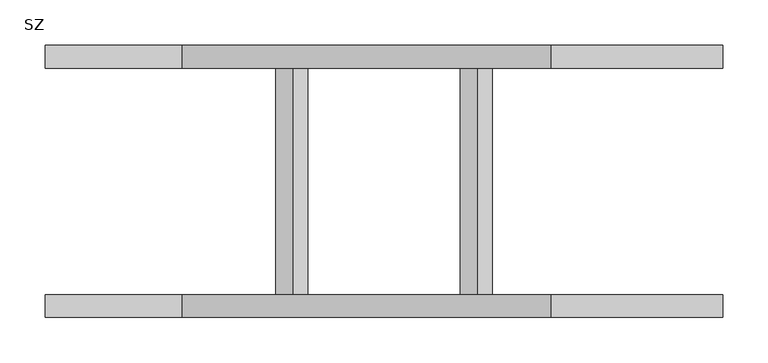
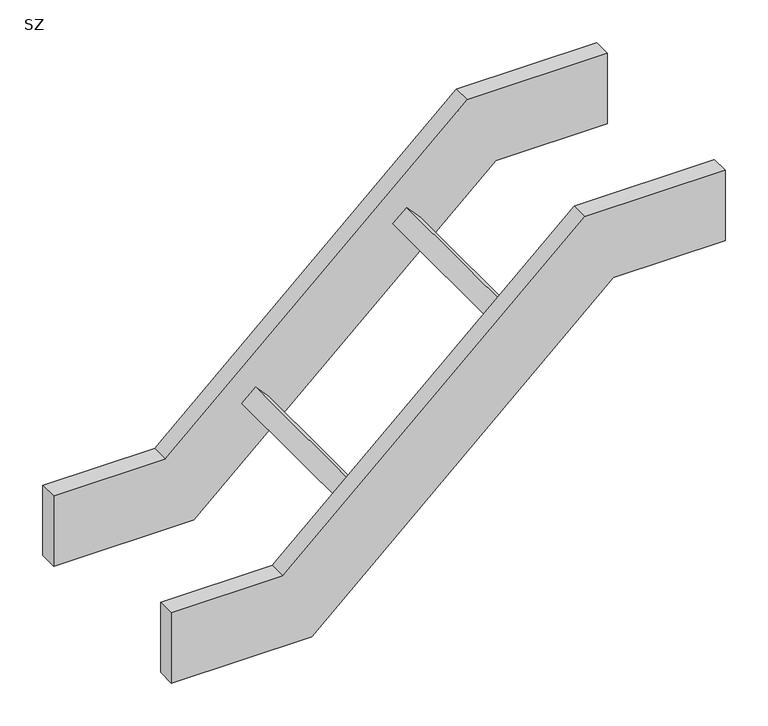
"""IFC4 building model written with IfcOpenShell, lengths in millimetres: cable carrier fitting geometry, IEK_Лестничный_Поворот шарнирный : SZ."""

from ifc_helpers import new_model, si_unit, frame, origin, place, context, project, spatial, polyline, outline, extrude, source, transform, mapped, element, save


def sz_76e921f6(model_context):
    return source(origin(), model_context, "Body", "SweptSolid", [
        extrude(outline(polyline([(0.0, -250.0), (0.0, 0.0), (24.9999999, 0.0), (24.9999999, -250.0), (0.0, -250.0)])), frame((304.3844393, 125.0, 259.8198667), z_axis=(-0.6726727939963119, 0.0, 0.7399400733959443), x_axis=(0.7399400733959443, 0.0, 0.6726727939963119)), (0.0, 0.0, 1.0), 25.0),
        extrude(outline(polyline([(0.0, -250.0), (0.0, 0.0), (25.0, 0.0), (25.0, -250.0), (0.0, -250.0)])), frame((100.9009191, 125.0, 74.8348483), z_axis=(-0.6726727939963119, 0.0, 0.7399400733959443), x_axis=(0.7399400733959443, 0.0, 0.6726727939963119)), (0.0, 0.0, 1.0), 25.0),
        extrude(outline(polyline([(50.0, -170.0), (-50.0, -170.0), (-50.0, 19.3303437), (319.9700367, 426.2973841), (319.9700367, 576.9670404), (419.9700367, 576.9670404), (419.9700367, 387.6366966), (50.0, -19.3303437), (50.0, -170.0)])), frame((0.0, -150.0, 0.0), z_axis=(0.0, 1.0, 0.0), x_axis=(0.0, 0.0, 1.0)), (0.0, 0.0, 1.0), 25.0),
        extrude(outline(polyline([(50.0, -170.0), (-50.0, -170.0), (-50.0, 19.3303437), (319.9700367, 426.2973841), (319.9700367, 576.9670404), (419.9700367, 576.9670404), (419.9700367, 387.6366966), (50.0, -19.3303437), (50.0, -170.0)])), frame((0.0, 125.0, 0.0), z_axis=(0.0, 1.0, 0.0), x_axis=(0.0, 0.0, 1.0)), (0.0, 0.0, 1.0), 25.0),
    ])


if __name__ == "__main__":
    model = new_model("IFC4")
    model_context = context("Model", 3, world=origin())
    ifc_project = project(units=[si_unit("LENGTHUNIT", "METRE", prefix="MILLI")], contexts=[model_context])
    site = spatial("IfcSite", under=ifc_project)
    building = spatial("IfcBuilding", under=site)
    placement = place(None, origin())
    sz_shape = sz_76e921f6(model_context)
    element("IfcCableCarrierFitting", 1, ObjectType="IEK_Лестничный_Поворот шарнирный : SZ", at=placement, inside=building, context=model_context, shape_type="MappedRepresentation", body=[
        mapped(sz_shape, transform((0.0, 0.0, 0.0), x_axis=(1.0, 0.0, 0.0), y_axis=(0.0, 1.0, 0.0), z_axis=(0.0, 0.0, 1.0))),
    ])
    save(model, "model.ifc")
